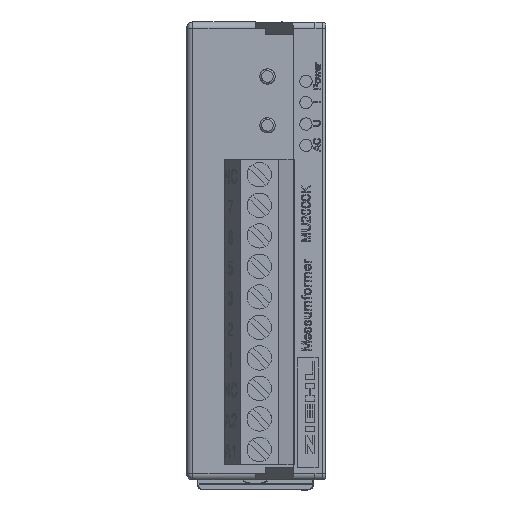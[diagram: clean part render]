
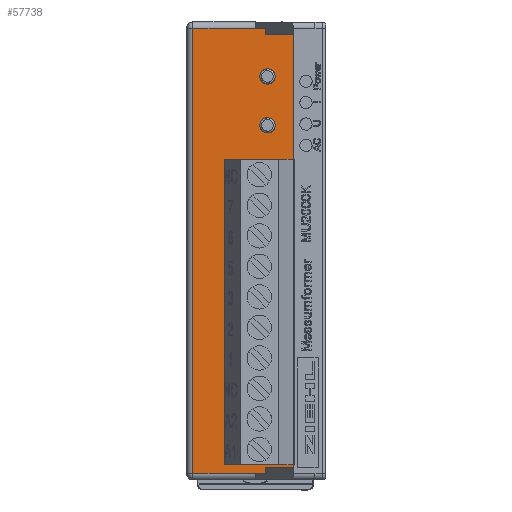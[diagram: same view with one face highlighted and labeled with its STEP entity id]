
A CAD part, left-side view. The second image highlights one B-rep face of the part: STEP entity #57738.
In plain terms, the highlighted planar face has unit normal (-1, 0, 0) as drawn and (1, 0, 0) by its records, which use the part's own axes.
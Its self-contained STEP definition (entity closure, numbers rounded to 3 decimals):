
#676 = ORIENTED_EDGE ( 'NONE', *, *, #64950, .T. ) ;
#3206 = VERTEX_POINT ( 'NONE', #55842 ) ;
#3644 = DIRECTION ( 'NONE',  ( -1., 0., 0. ) ) ;
#3715 = EDGE_CURVE ( 'NONE', #70158, #47476, #11844, .T. ) ;
#4732 = LINE ( 'NONE', #37095, #33076 ) ;
#6459 = CARTESIAN_POINT ( 'NONE',  ( 30., -16.3, 35.5 ) ) ;
#7644 = CARTESIAN_POINT ( 'NONE',  ( 30., -14.3, 35.5 ) ) ;
#7786 = VERTEX_POINT ( 'NONE', #84704 ) ;
#10397 = CARTESIAN_POINT ( 'NONE',  ( 30., 1.2, 37.5 ) ) ;
#11689 = ORIENTED_EDGE ( 'NONE', *, *, #48578, .T. ) ;
#11844 = LINE ( 'NONE', #33939, #85518 ) ;
#12367 = DIRECTION ( 'NONE',  ( 0., 1., 0. ) ) ;
#13271 = LINE ( 'NONE', #85949, #74209 ) ;
#14864 = ORIENTED_EDGE ( 'NONE', *, *, #47078, .F. ) ;
#15770 = VERTEX_POINT ( 'NONE', #48175 ) ;
#17065 = CARTESIAN_POINT ( 'NONE',  ( 30., -16.3, -35.5 ) ) ;
#18963 = ORIENTED_EDGE ( 'NONE', *, *, #25756, .F. ) ;
#20011 = LINE ( 'NONE', #7644, #68441 ) ;
#20453 = VERTEX_POINT ( 'NONE', #50366 ) ;
#21061 = ORIENTED_EDGE ( 'NONE', *, *, #3715, .F. ) ;
#21278 = ORIENTED_EDGE ( 'NONE', *, *, #28813, .F. ) ;
#21843 = CARTESIAN_POINT ( 'NONE',  ( 30., -14.3, -37.5 ) ) ;
#25756 = EDGE_CURVE ( 'NONE', #7786, #70158, #85073, .T. ) ;
#28548 = DIRECTION ( 'NONE',  ( 0., 0., 1. ) ) ;
#28813 = EDGE_CURVE ( 'NONE', #48800, #35142, #36771, .T. ) ;
#30604 = DIRECTION ( 'NONE',  ( 0., -1., 0. ) ) ;
#31519 = CARTESIAN_POINT ( 'NONE',  ( 30., -16.3, -36.5 ) ) ;
#33076 = VECTOR ( 'NONE', #30604, 1000. ) ;
#33186 = EDGE_CURVE ( 'NONE', #47476, #81595, #70472, .T. ) ;
#33529 = DIRECTION ( 'NONE',  ( 0., 0., 1. ) ) ;
#33939 = CARTESIAN_POINT ( 'NONE',  ( 30., -16.3, 36.5 ) ) ;
#34620 = FACE_OUTER_BOUND ( 'NONE', #50554, .T. ) ;
#35142 = VERTEX_POINT ( 'NONE', #78238 ) ;
#36188 = DIRECTION ( 'NONE',  ( 0., 0., 1. ) ) ;
#36771 = LINE ( 'NONE', #38758, #83136 ) ;
#37095 = CARTESIAN_POINT ( 'NONE',  ( 30., 1.2, 36.5 ) ) ;
#38758 = CARTESIAN_POINT ( 'NONE',  ( 30., -16.3, 36.5 ) ) ;
#41809 = VECTOR ( 'NONE', #51770, 1000. ) ;
#41869 = CARTESIAN_POINT ( 'NONE',  ( 30., -16.3, -35.5 ) ) ;
#42251 = EDGE_CURVE ( 'NONE', #20453, #15770, #57904, .T. ) ;
#42385 = CARTESIAN_POINT ( 'NONE',  ( 30., -14.3, 36.5 ) ) ;
#42908 = EDGE_CURVE ( 'NONE', #81595, #48800, #20011, .T. ) ;
#43354 = PLANE ( 'NONE',  #45088 ) ;
#44793 = DIRECTION ( 'NONE',  ( 0., 1., 0. ) ) ;
#45088 = AXIS2_PLACEMENT_3D ( 'NONE', #10397, #3644, #50357 ) ;
#45795 = DIRECTION ( 'NONE',  ( 0., 1., 0. ) ) ;
#46417 = ORIENTED_EDGE ( 'NONE', *, *, #73339, .T. ) ;
#46720 = VERTEX_POINT ( 'NONE', #49503 ) ;
#47078 = EDGE_CURVE ( 'NONE', #20453, #7786, #75712, .T. ) ;
#47476 = VERTEX_POINT ( 'NONE', #60784 ) ;
#48175 = CARTESIAN_POINT ( 'NONE',  ( 30., -10.082, -36.5 ) ) ;
#48578 = EDGE_CURVE ( 'NONE', #15770, #3206, #87049, .T. ) ;
#48800 = VERTEX_POINT ( 'NONE', #42385 ) ;
#49503 = CARTESIAN_POINT ( 'NONE',  ( 30., 0.2, 36.5 ) ) ;
#50357 = DIRECTION ( 'NONE',  ( 0., 0., 1. ) ) ;
#50366 = CARTESIAN_POINT ( 'NONE',  ( 30., -14.3, -36.5 ) ) ;
#50554 = EDGE_LOOP ( 'NONE', ( #676, #46417, #21278, #68651, #58872, #21061, #18963, #14864, #75685, #11689 ) ) ;
#51770 = DIRECTION ( 'NONE',  ( 0., 1., 0. ) ) ;
#55842 = CARTESIAN_POINT ( 'NONE',  ( 30., 0.2, -36.5 ) ) ;
#57738 = ADVANCED_FACE ( 'NONE', ( #34620 ), #43354, .F. ) ;
#57904 = LINE ( 'NONE', #31519, #85316 ) ;
#58872 = ORIENTED_EDGE ( 'NONE', *, *, #33186, .F. ) ;
#60784 = CARTESIAN_POINT ( 'NONE',  ( 30., -16.3, 35.5 ) ) ;
#61402 = DIRECTION ( 'NONE',  ( 0., 0., 1. ) ) ;
#63144 = VECTOR ( 'NONE', #12367, 1000. ) ;
#64090 = DIRECTION ( 'NONE',  ( 0., -1., 0. ) ) ;
#64950 = EDGE_CURVE ( 'NONE', #3206, #46720, #13271, .T. ) ;
#65307 = CARTESIAN_POINT ( 'NONE',  ( 30., 1.2, -36.5 ) ) ;
#68441 = VECTOR ( 'NONE', #61402, 1000. ) ;
#68651 = ORIENTED_EDGE ( 'NONE', *, *, #42908, .F. ) ;
#70158 = VERTEX_POINT ( 'NONE', #41869 ) ;
#70472 = LINE ( 'NONE', #6459, #63144 ) ;
#73339 = EDGE_CURVE ( 'NONE', #46720, #35142, #4732, .T. ) ;
#74209 = VECTOR ( 'NONE', #33529, 1000. ) ;
#75685 = ORIENTED_EDGE ( 'NONE', *, *, #42251, .T. ) ;
#75712 = LINE ( 'NONE', #21843, #82077 ) ;
#77714 = VECTOR ( 'NONE', #64090, 1000. ) ;
#78238 = CARTESIAN_POINT ( 'NONE',  ( 30., -10.082, 36.5 ) ) ;
#79883 = CARTESIAN_POINT ( 'NONE',  ( 30., -14.3, 35.5 ) ) ;
#81595 = VERTEX_POINT ( 'NONE', #79883 ) ;
#82077 = VECTOR ( 'NONE', #28548, 1000. ) ;
#83136 = VECTOR ( 'NONE', #45795, 1000. ) ;
#84704 = CARTESIAN_POINT ( 'NONE',  ( 30., -14.3, -35.5 ) ) ;
#85073 = LINE ( 'NONE', #17065, #77714 ) ;
#85316 = VECTOR ( 'NONE', #44793, 1000. ) ;
#85518 = VECTOR ( 'NONE', #36188, 1000. ) ;
#85949 = CARTESIAN_POINT ( 'NONE',  ( 30., 0.2, 37.5 ) ) ;
#87049 = LINE ( 'NONE', #65307, #41809 ) ;
